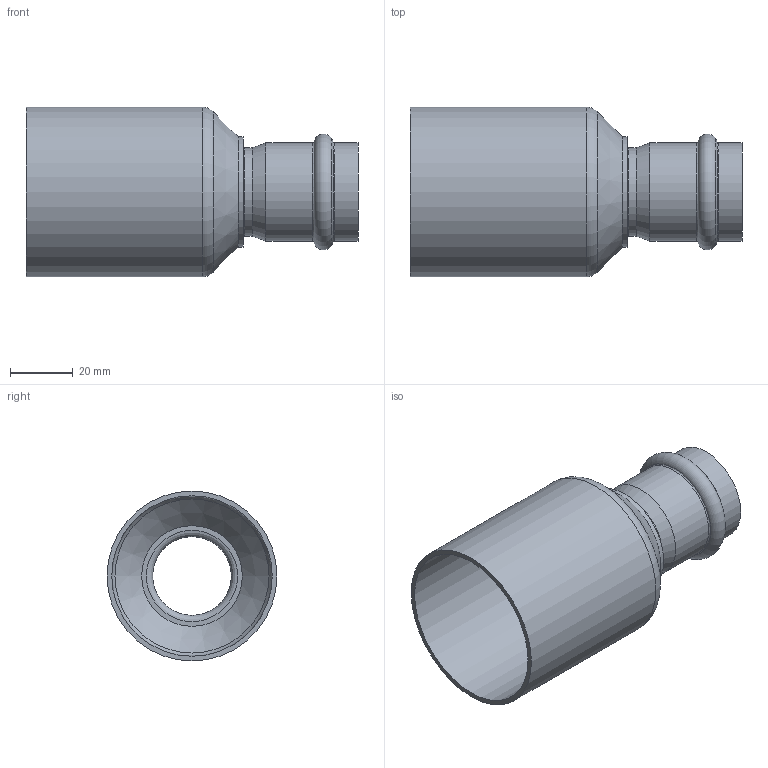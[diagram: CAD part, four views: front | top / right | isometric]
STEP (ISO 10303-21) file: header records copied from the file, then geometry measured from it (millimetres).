
FILE_DESCRIPTION((''),'2;1');
FILE_NAME('G:\Nirosan-Schmiedefeld\Technics\CAD\001 Serie 9.000\054\692435428H(3).stp','2017-09-21T14:44:51',('herberg'),(''),'Autodesk Inventor 2009','Autodesk Inventor 2009','');
FILE_SCHEMA(('AUTOMOTIVE_DESIGN { 1 0 10303 214 1 1 1 1 }'));
Length unit declared in the file: millimetre
Products named in the file (3): 692435428H(3); 692435428P(0); 69HMB28p(0)
Assembly tree (2 placements, depth 2):
  692435428H(3)
    692435428P(0)
    69HMB28p(0)
Bounding box: 105.5 x 54 x 54 mm (x, y, z)
Volume: 23209.8 mm3; surface area: 31648 mm2
Topology: 2 solids, 2 shells, 31 faces, 60 edges, 34 vertices
Faces by surface type: cylinder 10, bspline 7, cone 6, plane 5, torus 3
Full cylindrical faces by diameter (mm): 25 x1, 28 x1, 28.2 x2, 31.2 x2, 32 x1, 35 x1, 51 x1, 54 x1
Entity records: 994 total; most frequent: CARTESIAN_POINT 406, DIRECTION 120, ORIENTED_EDGE 62, EDGE_LOOP 62, AXIS2_PLACEMENT_3D 60, VERTEX_POINT 31, CIRCLE 31, EDGE_CURVE 31
